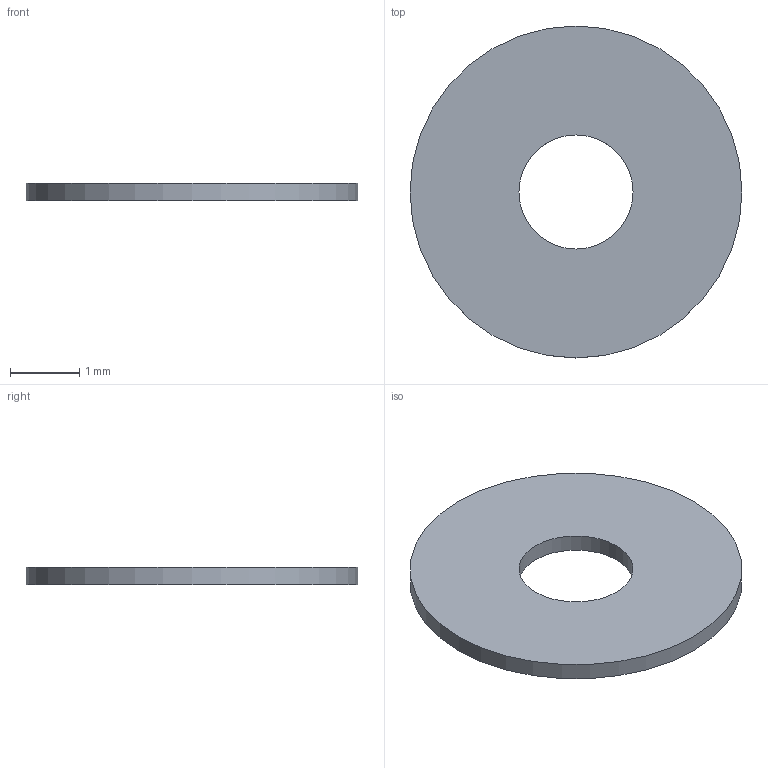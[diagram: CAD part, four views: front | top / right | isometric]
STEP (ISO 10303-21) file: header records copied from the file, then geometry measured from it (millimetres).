
FILE_DESCRIPTION(('Open CASCADE Model'),'2;1');
FILE_NAME('Open CASCADE Shape Model','2026-10-24T14:45:54',('Author'),( 'Open CASCADE'),'Open CASCADE STEP processor 7.7','Open CASCADE 7.7' ,'Unknown');
FILE_SCHEMA(('AUTOMOTIVE_DESIGN { 1 0 10303 214 1 1 1 1 }'));
Length unit declared in the file: millimetre
Products named in the file (1): Open CASCADE STEP translator 7.7 9
Bounding box: 4.8 x 4.8 x 0.25 mm (x, y, z)
Volume: 4 mm3; surface area: 37 mm2
Topology: 1 solids, 1 shells, 4 faces, 6 edges, 4 vertices
Faces by surface type: cylinder 2, plane 2
Full cylindrical faces by diameter (mm): 1.65 x1, 4.8 x1
Entity records: 186 total; most frequent: DIRECTION 32, CARTESIAN_POINT 27, ORIENTED_EDGE 12, PCURVE 12, DEFINITIONAL_REPRESENTATION 12, LINE 10, VECTOR 10, AXIS2_PLACEMENT_3D 9
